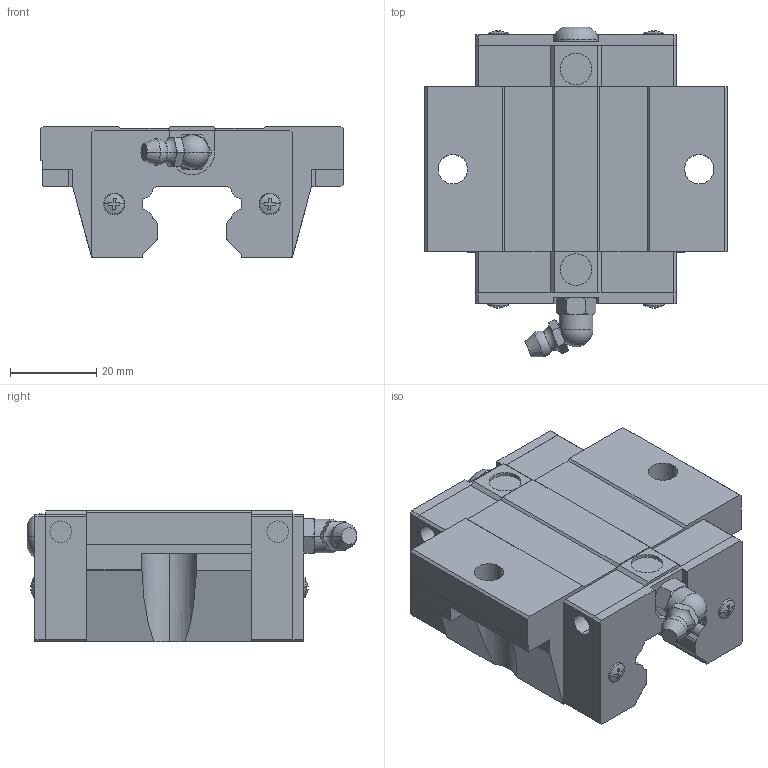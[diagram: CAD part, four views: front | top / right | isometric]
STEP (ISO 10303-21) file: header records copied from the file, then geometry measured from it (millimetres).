
FILE_DESCRIPTION(('no description'),'unknown implementation level');
FILE_NAME('HGW25SC_Z0_H_SS_2.stp',' ',('HIWIN GmbH'),('CADClick - KiM GmbH - www.kimweb.de'),'unknown preprocess','ACIS','unknown authorization');
FILE_SCHEMA(('automotive_design'));
Length unit declared in the file: millimetre
Products named in the file (1): 1
Bounding box: 70 x 76.31 x 30.5 mm (x, y, z)
Volume: 78583.4 mm3; surface area: 18046.6 mm2
Topology: 1 solids, 4 shells, 451 faces, 1239 edges, 811 vertices
Faces by surface type: plane 319, cylinder 74, cone 38, torus 18, sphere 2
Entity records: 28178 total; most frequent: CARTESIAN_POINT 3244, STYLED_ITEM 2500, PRESENTATION_STYLE_ASSIGNMENT 2500, COLOUR_RGB 2500, ORIENTED_EDGE 2474, DIRECTION 2154, EDGE_CURVE 1237, CURVE_STYLE 1237
